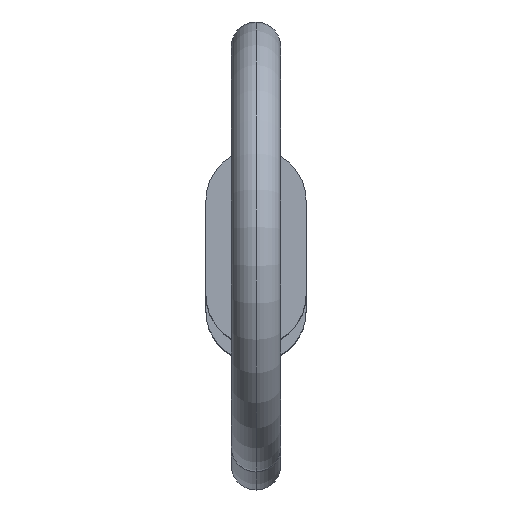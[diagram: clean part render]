
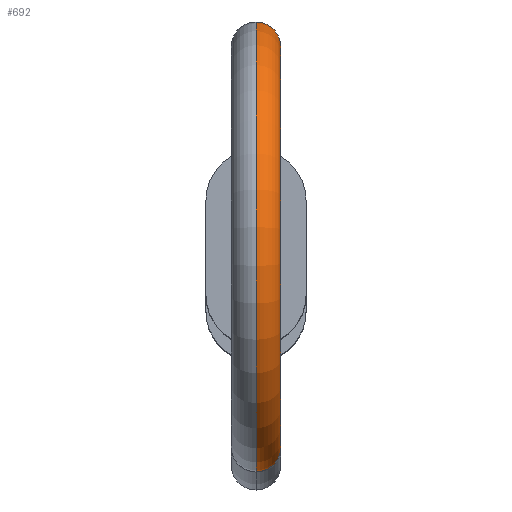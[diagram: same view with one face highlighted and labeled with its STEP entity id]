
A CAD part, top view. The second image highlights one B-rep face of the part: STEP entity #692.
In plain terms, the highlighted toroidal (fillet/blend) face has major radius 4.8 mm and minor radius 0.595 mm.
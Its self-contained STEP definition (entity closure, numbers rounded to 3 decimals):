
#2 = DIRECTION ( 'NONE',  ( 0., 0., -1. ) ) ;
#73 = EDGE_CURVE ( 'NONE', #555, #871, #261, .T. ) ;
#88 = CARTESIAN_POINT ( 'NONE',  ( 0., -1.133, 127. ) ) ;
#89 = AXIS2_PLACEMENT_3D ( 'NONE', #428, #877, #720 ) ;
#118 = DIRECTION ( 'NONE',  ( 0., 0., -1. ) ) ;
#191 = CARTESIAN_POINT ( 'NONE',  ( 0., -1.133, 127. ) ) ;
#196 = CARTESIAN_POINT ( 'NONE',  ( 0., 2.888, 123.403 ) ) ;
#220 = ORIENTED_EDGE ( 'NONE', *, *, #73, .F. ) ;
#261 = CIRCLE ( 'NONE', #711, 4.205 ) ;
#272 = AXIS2_PLACEMENT_3D ( 'NONE', #191, #533, #118 ) ;
#279 = CARTESIAN_POINT ( 'NONE',  ( 0., -1.133, 127. ) ) ;
#295 = CARTESIAN_POINT ( 'NONE',  ( 0., -4.711, 123.8 ) ) ;
#305 = CIRCLE ( 'NONE', #434, 0.595 ) ;
#322 = CIRCLE ( 'NONE', #644, 5.395 ) ;
#366 = DIRECTION ( 'NONE',  ( 0., 0.667, -0.745 ) ) ;
#388 = EDGE_LOOP ( 'NONE', ( #502, #677, #735, #220 ) ) ;
#428 = CARTESIAN_POINT ( 'NONE',  ( 0., 2.445, 123.8 ) ) ;
#434 = AXIS2_PLACEMENT_3D ( 'NONE', #295, #366, #938 ) ;
#442 = DIRECTION ( 'NONE',  ( 1., 0., 0. ) ) ;
#451 = TOROIDAL_SURFACE ( 'NONE', #272, 4.8, 0.595 ) ;
#502 = ORIENTED_EDGE ( 'NONE', *, *, #904, .T. ) ;
#533 = DIRECTION ( 'NONE',  ( 1., 0., 0. ) ) ;
#547 = VERTEX_POINT ( 'NONE', #196 ) ;
#555 = VERTEX_POINT ( 'NONE', #923 ) ;
#556 = DIRECTION ( 'NONE',  ( 0., 0., -1. ) ) ;
#586 = CIRCLE ( 'NONE', #89, 0.595 ) ;
#644 = AXIS2_PLACEMENT_3D ( 'NONE', #279, #733, #2 ) ;
#677 = ORIENTED_EDGE ( 'NONE', *, *, #855, .T. ) ;
#692 = ADVANCED_FACE ( 'NONE', ( #912 ), #451, .T. ) ;
#696 = CARTESIAN_POINT ( 'NONE',  ( 0., -5.154, 123.403 ) ) ;
#711 = AXIS2_PLACEMENT_3D ( 'NONE', #88, #442, #556 ) ;
#720 = DIRECTION ( 'NONE',  ( 1., 0., 0. ) ) ;
#733 = DIRECTION ( 'NONE',  ( 1., 0., 0. ) ) ;
#735 = ORIENTED_EDGE ( 'NONE', *, *, #783, .F. ) ;
#745 = VERTEX_POINT ( 'NONE', #696 ) ;
#783 = EDGE_CURVE ( 'NONE', #871, #745, #305, .T. ) ;
#855 = EDGE_CURVE ( 'NONE', #547, #745, #322, .T. ) ;
#871 = VERTEX_POINT ( 'NONE', #941 ) ;
#877 = DIRECTION ( 'NONE',  ( 0., 0.667, 0.745 ) ) ;
#904 = EDGE_CURVE ( 'NONE', #555, #547, #586, .T. ) ;
#912 = FACE_OUTER_BOUND ( 'NONE', #388, .T. ) ;
#923 = CARTESIAN_POINT ( 'NONE',  ( 0., 2.001, 124.197 ) ) ;
#938 = DIRECTION ( 'NONE',  ( 1., 0., 0. ) ) ;
#941 = CARTESIAN_POINT ( 'NONE',  ( 0., -4.267, 124.197 ) ) ;
